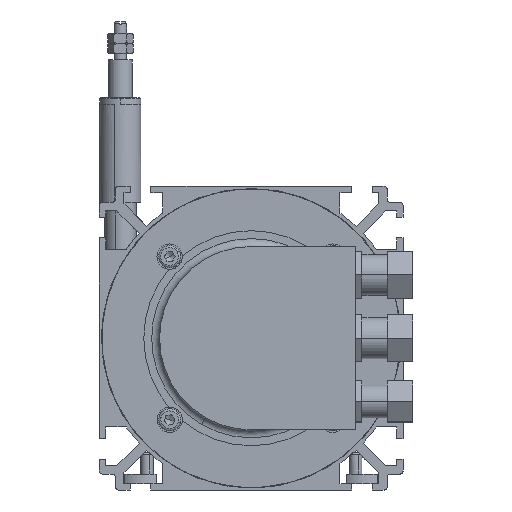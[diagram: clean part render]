
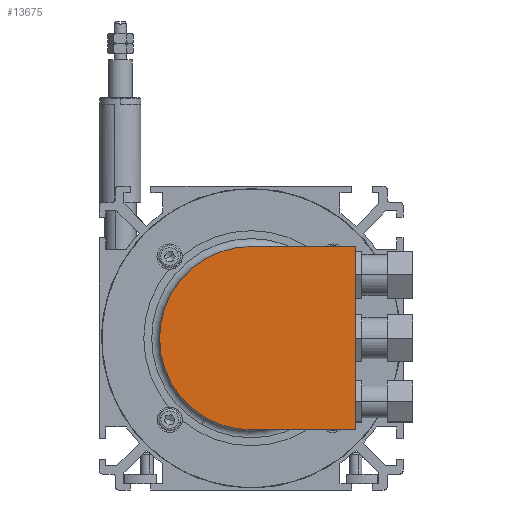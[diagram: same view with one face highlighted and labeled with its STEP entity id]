
A CAD part, left-side view. The second image highlights one B-rep face of the part: STEP entity #13675.
In plain terms, the highlighted planar face has unit normal (-1, 0, 0).
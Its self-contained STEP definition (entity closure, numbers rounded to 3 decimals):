
#5590=DIRECTION('',(0.,1.,0.));
#5591=VECTOR('',#5590,33.);
#5592=CARTESIAN_POINT('',(-114.7,-33.,-29.));
#5593=LINE('',#5592,#5591);
#5594=CARTESIAN_POINT('',(-114.7,0.,0.));
#5595=DIRECTION('',(1.,0.,0.));
#5596=DIRECTION('',(0.,0.,-1.));
#5597=AXIS2_PLACEMENT_3D('',#5594,#5595,#5596);
#5599=CARTESIAN_POINT('',(-114.7,0.,0.));
#5600=DIRECTION('',(1.,0.,0.));
#5601=DIRECTION('',(0.,1.,0.));
#5602=AXIS2_PLACEMENT_3D('',#5599,#5600,#5601);
#5604=DIRECTION('',(0.,-1.,0.));
#5605=VECTOR('',#5604,33.);
#5606=CARTESIAN_POINT('',(-114.7,0.,29.));
#5607=LINE('',#5606,#5605);
#5608=DIRECTION('',(0.,0.,-1.));
#5609=VECTOR('',#5608,58.);
#5610=CARTESIAN_POINT('',(-114.7,-33.,29.));
#5611=LINE('',#5610,#5609);
#6169=CARTESIAN_POINT('',(-114.7,0.,29.));
#6170=VERTEX_POINT('',#6169);
#6171=CARTESIAN_POINT('',(-114.7,29.,0.));
#6172=VERTEX_POINT('',#6171);
#6173=CARTESIAN_POINT('',(-114.7,0.,-29.));
#6174=VERTEX_POINT('',#6173);
#6183=CARTESIAN_POINT('',(-114.7,-33.,-29.));
#6184=VERTEX_POINT('',#6183);
#6185=CARTESIAN_POINT('',(-114.7,-33.,29.));
#6186=VERTEX_POINT('',#6185);
#13662=CARTESIAN_POINT('',(-114.7,0.,0.));
#13663=DIRECTION('',(-1.,0.,0.));
#13664=DIRECTION('',(0.,-1.,0.));
#13665=AXIS2_PLACEMENT_3D('',#13662,#13663,#13664);
#13666=PLANE('',#13665);
#13668=ORIENTED_EDGE('',*,*,#13667,.T.);
#13669=ORIENTED_EDGE('',*,*,#7778,.T.);
#13670=ORIENTED_EDGE('',*,*,#7776,.T.);
#13671=ORIENTED_EDGE('',*,*,#13656,.T.);
#13672=ORIENTED_EDGE('',*,*,#7699,.T.);
#13673=EDGE_LOOP('',(#13668,#13669,#13670,#13671,#13672));
#13674=FACE_OUTER_BOUND('',#13673,.F.);
#13675=ADVANCED_FACE('',(#13674),#13666,.T.);
#5598=CIRCLE('',#5597,29.);
#5603=CIRCLE('',#5602,29.);
#7699=EDGE_CURVE('',#6186,#6184,#5611,.T.);
#7776=EDGE_CURVE('',#6172,#6170,#5603,.T.);
#7778=EDGE_CURVE('',#6174,#6172,#5598,.T.);
#13656=EDGE_CURVE('',#6170,#6186,#5607,.T.);
#13667=EDGE_CURVE('',#6184,#6174,#5593,.T.);
